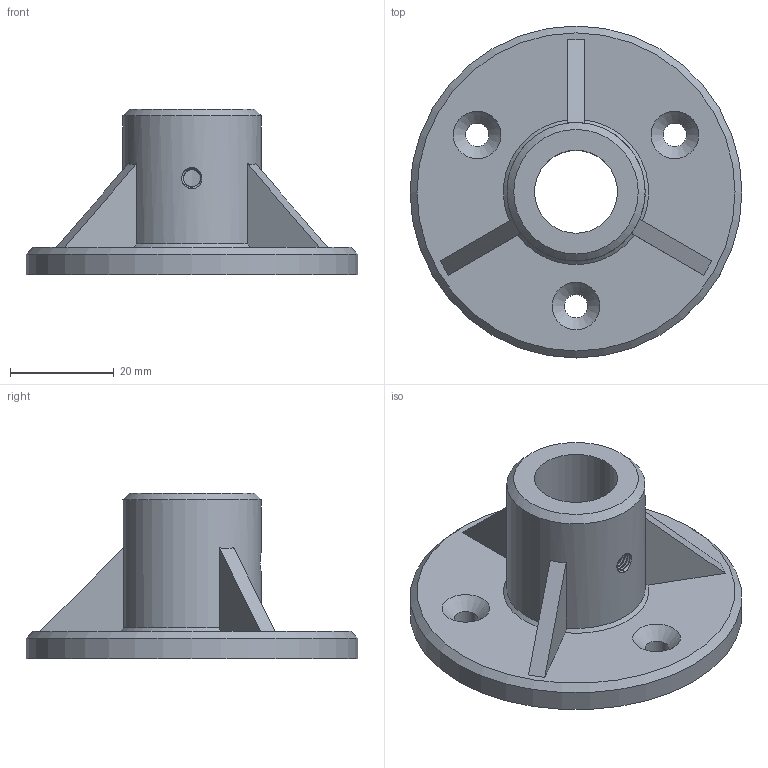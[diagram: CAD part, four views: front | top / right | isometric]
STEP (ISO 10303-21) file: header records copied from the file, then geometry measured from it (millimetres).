
FILE_DESCRIPTION(/* description */ (''),/* implementation_level */ '2;1');
FILE_NAME(/* name */ '16MM_M4.stp',/* time_stamp */ '2024-11-18T16:27:10+01:00',/* author */ (''),/* organization */ (''),/* preprocessor_version */ 'ST-DEVELOPER v20',/* originating_system */ 'SIEMENS PLM Software NX2406.4001',/* authorisation */ '');
FILE_SCHEMA (('AUTOMOTIVE_DESIGN { 1 0 10303 214 3 1 1 1 }'));
Length unit declared in the file: millimetre
Products named in the file (1): 16MM_M4
Bounding box: 64 x 64 x 32 mm (x, y, z)
Volume: 26148 mm3; surface area: 11531.8 mm2
Topology: 1 solids, 1 shells, 36 faces, 92 edges, 59 vertices
Faces by surface type: plane 13, cone 13, cylinder 8, bspline 2
Full cylindrical faces by diameter (mm): 4.5 x3, 16 x1, 26.667 x1, 64 x1
Entity records: 3336 total; most frequent: CARTESIAN_POINT 2506, DIRECTION 157, ORIENTED_EDGE 152, EDGE_CURVE 76, AXIS2_PLACEMENT_3D 67, EDGE_LOOP 61, VERTEX_POINT 57, FACE_BOUND 42
